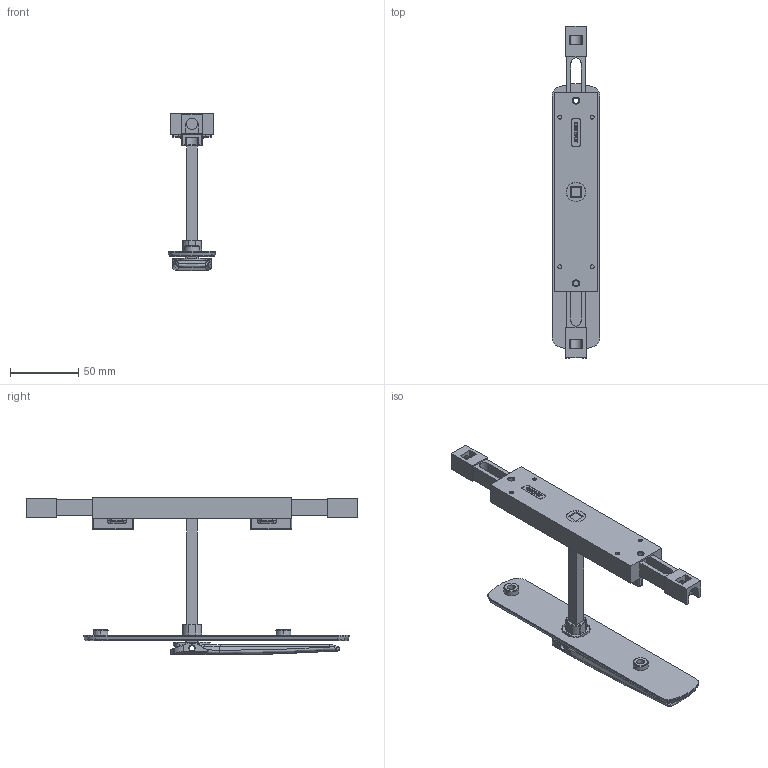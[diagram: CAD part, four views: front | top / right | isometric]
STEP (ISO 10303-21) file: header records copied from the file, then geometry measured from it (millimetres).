
FILE_DESCRIPTION (( 'STEP AP214' ), '1' );
FILE_NAME ('TPL-H-EU-601-C 30Oct2024.STEP', '2024-10-30T03:19:25', ( '' ), ( '' ), 'SwSTEP 2.0', 'SolidWorks 2023', '' );
FILE_SCHEMA (( 'AUTOMOTIVE_DESIGN' ));
Length unit declared in the file: millimetre
Products named in the file (11): Copy of TPLGen2 lock body non-keyed assembly^TPL-H-EU-101 30Oct2024_Bolts extended; TPL-H-EU-601-C 30Oct2024; Copy of LKC-585 Rotator body zinc^Copy of TPGen2 handle non-keyed short zinc - simplified_TPL-H-EU-101 30Oct2024; Copy of LKC-584 Pivot body zinc - simplified^Copy of TPGen2 handle non-keyed short zinc - simplified_TPL-H-EU-101 30Oct2024; TPLGen2 push rod - simplified_Female thread M10; Copy of TPL-H-APC-515 04Oct2024^TPL-H-EU-101 30Oct2024; Copy of TPGen2 handle non-keyed short zinc - simplified^TPL-H-EU-101 30Oct2024_Vertical; Copy of LKC-586 Spindle square 8mm with M4 hole^Copy of TPGen2 handle non-keyed short zinc - simplified_TPL-H-EU-101 30Oct2024_100mm; Copy of LKC-516 Escutcheon plate unkeyed 195mm long zinc - simplified^Copy of TPGen2 handle non-keyed short zinc - simplified_TPL-H-EU-101 30Oct2024; Copy of TPLGen2 lock body non-keyed^Copy of TPLGen2 lock body non-keyed assembly_TPL-H-EU-101 30Oct2024; Copy of LKC-505 Swing handle zinc - simplified^Copy of TPGen2 handle non-keyed short zinc - simplified_TPL-H-EU-101 30Oct2024
Assembly tree (12 placements, depth 3):
  TPL-H-EU-601-C 30Oct2024
    Copy of TPLGen2 lock body non-keyed assembly^TPL-H-EU-101 30Oct2024_Bolts extended
      Copy of TPLGen2 lock body non-keyed^Copy of TPLGen2 lock body non-keyed assembly_TPL-H-EU-101 30Oct2024
      TPLGen2 push rod - simplified_Female thread M10  x2
    Copy of TPGen2 handle non-keyed short zinc - simplified^TPL-H-EU-101 30Oct2024_Vertical
      Copy of LKC-516 Escutcheon plate unkeyed 195mm long zinc - simplified^Copy of TPGen2 handle non-keyed short zinc - simplified_TPL-H-EU-101 30Oct2024
      Copy of LKC-505 Swing handle zinc - simplified^Copy of TPGen2 handle non-keyed short zinc - simplified_TPL-H-EU-101 30Oct2024
      Copy of LKC-585 Rotator body zinc^Copy of TPGen2 handle non-keyed short zinc - simplified_TPL-H-EU-101 30Oct2024
      Copy of LKC-586 Spindle square 8mm with M4 hole^Copy of TPGen2 handle non-keyed short zinc - simplified_TPL-H-EU-101 30Oct2024_100mm
      Copy of LKC-584 Pivot body zinc - simplified^Copy of TPGen2 handle non-keyed short zinc - simplified_TPL-H-EU-101 30Oct2024
    Copy of TPL-H-APC-515 04Oct2024^TPL-H-EU-101 30Oct2024  x2
Bounding box: 35 x 242.6 x 115.21 mm (x, y, z)
Volume: 135474.5 mm3; surface area: 62706.4 mm2
Topology: 10 solids, 10 shells, 1013 faces, 2470 edges, 1506 vertices
Faces by surface type: plane 312, bspline 273, cylinder 256, torus 88, cone 62, sphere 22
Entity records: 31294 total; most frequent: CARTESIAN_POINT 13397, ORIENTED_EDGE 3984, DIRECTION 3208, EDGE_CURVE 1992, VERTEX_POINT 1218, AXIS2_PLACEMENT_3D 1203, EDGE_LOOP 904, ADVANCED_FACE 827
